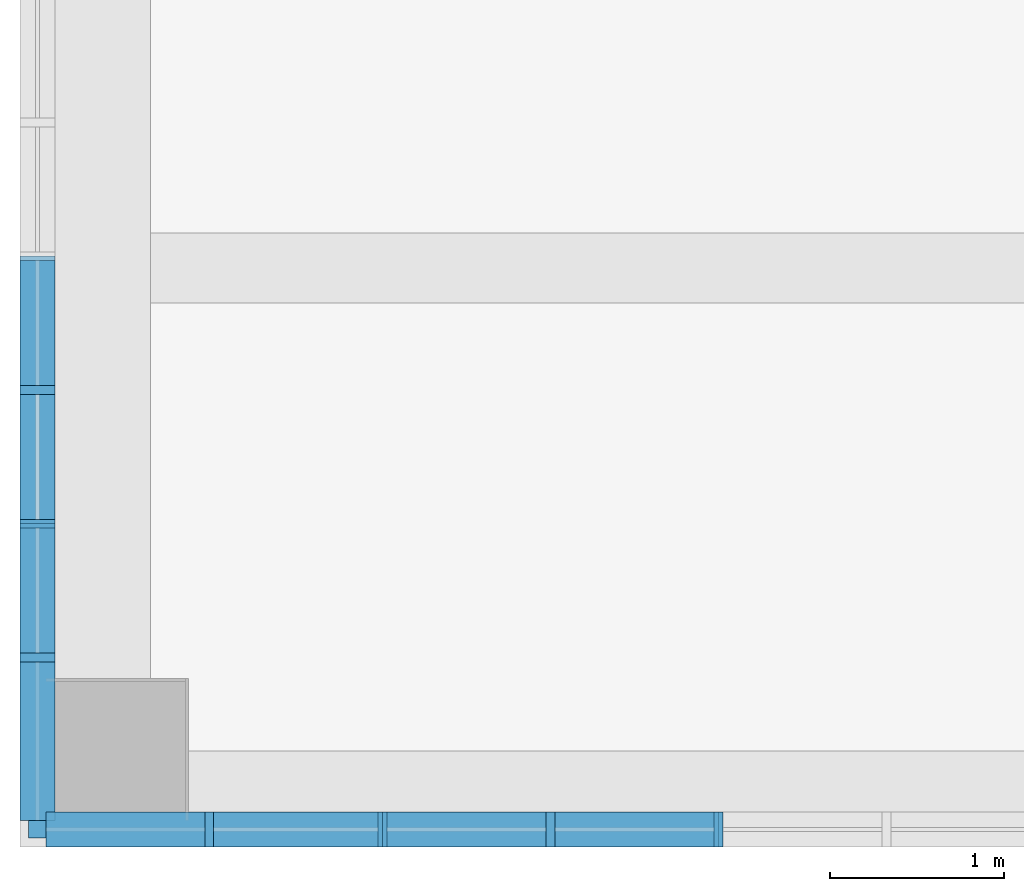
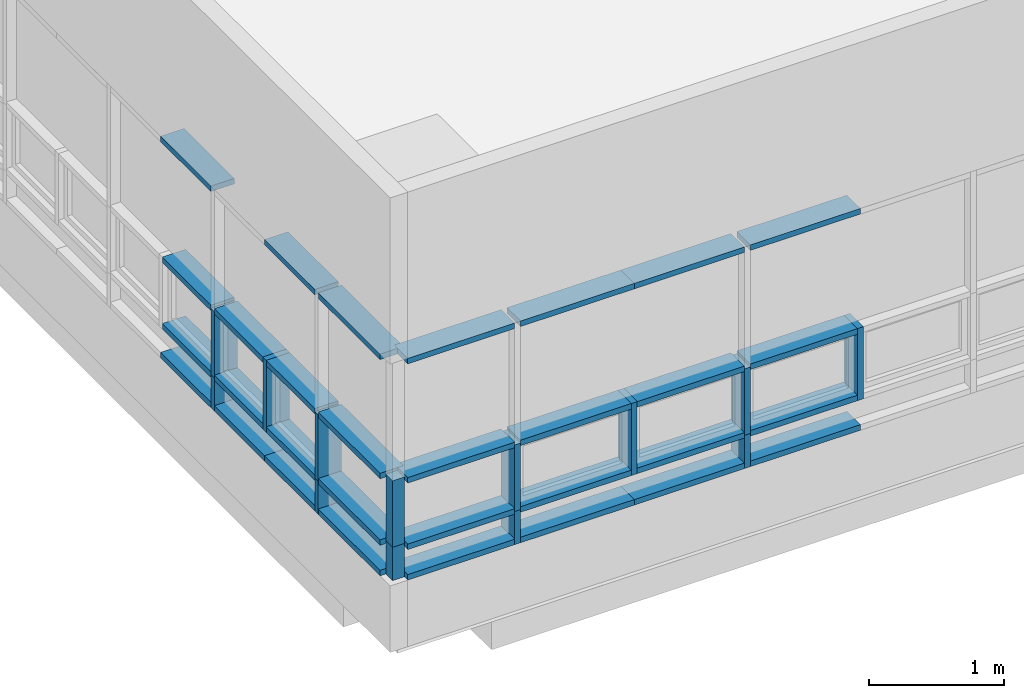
# One storey, part 9 of 82: 44 members, 2 elements without a shape of their own.
"""IFC2X3 building model written with IfcOpenShell, lengths in millimetres."""

from ifc_helpers import new_model, entity, si_unit, converted_unit, derived_unit, direction, frame, origin, origin_2d_with_axis, place, context, subcontext, project, spatial, rectangle, extrude, source, transform, mapped, material, type_object, type_shapes, element, aggregate, save


model = new_model("IFC2X3")

# Units and contexts
model_context = context("Model", 3, precision=0.01, world=origin(), true_north=direction((6.123031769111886e-17, 1.0)))
body_context = subcontext(model_context, "Body", "Model", "MODEL_VIEW")
ifc_project = project(units=[si_unit("LENGTHUNIT", "METRE", prefix="MILLI"), si_unit("AREAUNIT", "SQUARE_METRE"), si_unit("VOLUMEUNIT", "CUBIC_METRE"), converted_unit("PLANEANGLEUNIT", "DEGREE", entity("IfcRatioMeasure", 0.017453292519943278), si_unit("PLANEANGLEUNIT", "RADIAN"), dimensions=[0, 0, 0, 0, 0, 0, 0]), si_unit("MASSUNIT", "GRAM", prefix="KILO"), derived_unit("MASSDENSITYUNIT", [(si_unit("MASSUNIT", "GRAM", prefix="KILO"), 1), (si_unit("LENGTHUNIT", "METRE"), -3)]), derived_unit("MOMENTOFINERTIAUNIT", [(si_unit("LENGTHUNIT", "METRE"), 4)]), si_unit("TIMEUNIT", "SECOND"), si_unit("FREQUENCYUNIT", "HERTZ"), si_unit("THERMODYNAMICTEMPERATUREUNIT", "DEGREE_CELSIUS"), derived_unit("THERMALTRANSMITTANCEUNIT", [(si_unit("MASSUNIT", "GRAM", prefix="KILO"), 1), (si_unit("THERMODYNAMICTEMPERATUREUNIT", "KELVIN"), -1), (si_unit("TIMEUNIT", "SECOND"), -3)]), derived_unit("VOLUMETRICFLOWRATEUNIT", [(si_unit("LENGTHUNIT", "METRE"), 3), (si_unit("TIMEUNIT", "SECOND"), -1)]), derived_unit("MASSFLOWRATEUNIT", [(si_unit("MASSUNIT", "GRAM", prefix="KILO"), 1), (si_unit("TIMEUNIT", "SECOND"), -1)]), derived_unit("ROTATIONALFREQUENCYUNIT", [(si_unit("TIMEUNIT", "SECOND"), -1)]), si_unit("ELECTRICCURRENTUNIT", "AMPERE"), si_unit("ELECTRICVOLTAGEUNIT", "VOLT"), si_unit("POWERUNIT", "WATT"), si_unit("FORCEUNIT", "NEWTON", prefix="KILO"), si_unit("ILLUMINANCEUNIT", "LUX"), si_unit("LUMINOUSFLUXUNIT", "LUMEN"), si_unit("LUMINOUSINTENSITYUNIT", "CANDELA"), derived_unit("USERDEFINED", [(si_unit("MASSUNIT", "GRAM", prefix="KILO"), -1), (si_unit("LENGTHUNIT", "METRE"), -2), (si_unit("TIMEUNIT", "SECOND"), 3), (si_unit("LUMINOUSFLUXUNIT", "LUMEN"), 1)]), derived_unit("SOUNDPOWERUNIT", [(si_unit("MASSUNIT", "GRAM", prefix="KILO"), 1), (si_unit("LENGTHUNIT", "METRE"), 2), (si_unit("TIMEUNIT", "SECOND"), -3)]), derived_unit("SOUNDPRESSUREUNIT", [(si_unit("MASSUNIT", "GRAM", prefix="KILO"), 1), (si_unit("LENGTHUNIT", "METRE"), -1), (si_unit("TIMEUNIT", "SECOND"), -2)]), derived_unit("LINEARVELOCITYUNIT", [(si_unit("LENGTHUNIT", "METRE"), 1), (si_unit("TIMEUNIT", "SECOND"), -1)]), si_unit("PRESSUREUNIT", "PASCAL"), derived_unit("USERDEFINED", [(si_unit("LENGTHUNIT", "METRE"), -2), (si_unit("MASSUNIT", "GRAM", prefix="KILO"), 1), (si_unit("TIMEUNIT", "SECOND"), -2)]), derived_unit("LINEARFORCEUNIT", [(si_unit("MASSUNIT", "GRAM", prefix="KILO"), 1), (si_unit("LENGTHUNIT", "METRE"), 1), (si_unit("TIMEUNIT", "SECOND"), -2), (si_unit("LENGTHUNIT", "METRE"), -1)]), derived_unit("PLANARFORCEUNIT", [(si_unit("MASSUNIT", "GRAM", prefix="KILO"), 1), (si_unit("LENGTHUNIT", "METRE"), 1), (si_unit("TIMEUNIT", "SECOND"), -2), (si_unit("LENGTHUNIT", "METRE"), -2)])], contexts=[model_context])

# Site, building, storey
site_placement = place(None, frame((-14167.972527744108, -657.2125860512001, 0.0)))
site = spatial("IfcSite", under=ifc_project, at=site_placement, Name="Default", CompositionType="ELEMENT")
building_placement = place(site_placement, origin())
building = spatial("IfcBuilding", under=site, at=building_placement, Name="Sample Building", CompositionType="ELEMENT")
storey_placement = place(building_placement, frame((0.0, 0.0, 17500.0)))
storey = spatial("IfcBuildingStorey", under=building, at=storey_placement, Name="지상 5층", CompositionType="ELEMENT", Elevation=17500.00000000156)

# Curtain wall, members
curtain_wall_type = type_object("IfcCurtainWallType", Name="커튼월:CW112-스테인리스 스틸 커튼월", PredefinedType="NOTDEFINED")
curtain_wall_1_placement = place(storey_placement, frame((0.0, 0.0, -17500.0)))
curtain_wall_1 = element("IfcCurtainWall", 1, at=curtain_wall_1_placement, inside=storey, type_object=curtain_wall_type, Name="커튼월:CW112-스테인리스 스틸 커튼월", ObjectType="커튼월:CW112-스테인리스 스틸 커튼월")
ifc_material = material(Name="<Unnamed>")
member_type_1 = type_object("IfcMemberType", Name="직사각형 멀리언:CW200-직사각형 멀리언 50x200mm", PredefinedType="MULLION", material=ifc_material)
shared_shape_1 = source(origin(), body_context, "Body", "SweptSolid", [
    extrude(rectangle(XDim=200.0, YDim=50.0, at=origin_2d_with_axis()), frame((-25.0, 0.0, -970.0), z_axis=(0.0, 0.0, 1.0), x_axis=(0.0, -1.0, 0.0)), (0.0, 0.0, 1.0), 970.0000000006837),
])
type_shapes(member_type_1, [shared_shape_1])
member_1_placement = place(curtain_wall_1_placement, frame((15030.156070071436, 507.2122951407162, 18100.0), z_axis=(-1.0, 0.0, 0.0), x_axis=(0.0, 0.0, -1.0)))
member_1 = element("IfcMember", 2, at=member_1_placement, type_object=member_type_1, material=ifc_material, Name="직사각형 멀리언:CW200-직사각형 멀리언 50x200mm", ObjectType="직사각형 멀리언:CW200-직사각형 멀리언 50x200mm", context=body_context, shape_type="MappedRepresentation", body=[
    mapped(shared_shape_1, transform((0.0, 0.0, 0.0), scale=1.0)),
])
member_type_2 = type_object("IfcMemberType", Name="직사각형 멀리언:CW200-직사각형 멀리언 50x200mm", PredefinedType="MULLION", material=ifc_material)
shared_shape_2 = source(origin(), body_context, "Body", "SweptSolid", [
    extrude(rectangle(XDim=200.0, YDim=50.0, at=origin_2d_with_axis()), frame((0.0, 0.0, -600.0), z_axis=(0.0, 0.0, 1.0), x_axis=(0.0, -1.0, 0.0)), (0.0, 0.0, 1.0), 600.0),
])
type_shapes(member_type_2, [shared_shape_2])
member_2_placement = place(curtain_wall_1_placement, frame((15005.156070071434, 507.21229514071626, 18400.0), z_axis=(0.0, 0.0, -1.0), x_axis=(1.0, 0.0, 0.0)))
member_2 = element("IfcMember", 3, at=member_2_placement, type_object=member_type_2, material=ifc_material, Name="직사각형 멀리언:CW200-직사각형 멀리언 50x200mm", ObjectType="직사각형 멀리언:CW200-직사각형 멀리언 50x200mm", context=body_context, shape_type="MappedRepresentation", body=[
    mapped(shared_shape_2, transform((0.0, 0.0, 0.0), scale=1.0)),
])
member_3_placement = place(curtain_wall_1_placement, frame((16965.156070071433, 507.2122951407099, 18400.0), z_axis=(0.0, 0.0, -1.0), x_axis=(1.0, 0.0, 0.0)))
member_3 = element("IfcMember", 4, at=member_3_placement, type_object=member_type_2, material=ifc_material, Name="직사각형 멀리언:CW200-직사각형 멀리언 50x200mm", ObjectType="직사각형 멀리언:CW200-직사각형 멀리언 50x200mm", context=body_context, shape_type="MappedRepresentation", body=[
    mapped(shared_shape_2, transform((0.0, 0.0, 0.0), scale=1.0)),
])

curtain_wall_2_placement = place(storey_placement, frame((0.0, 0.0, -17500.0)))
curtain_wall_2 = element("IfcCurtainWall", 5, at=curtain_wall_2_placement, inside=storey, type_object=curtain_wall_type, Name="커튼월:CW112-스테인리스 스틸 커튼월", ObjectType="커튼월:CW112-스테인리스 스틸 커튼월")
member_4_placement = place(curtain_wall_2_placement, frame((14017.33965484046, 3031.531992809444, 18400.0), z_axis=(0.0, 0.0, -1.0), x_axis=(0.0, -1.0, 0.0)))
member_4 = element("IfcMember", 6, at=member_4_placement, type_object=member_type_2, material=ifc_material, Name="직사각형 멀리언:CW200-직사각형 멀리언 50x200mm", ObjectType="직사각형 멀리언:CW200-직사각형 멀리언 50x200mm", context=body_context, shape_type="MappedRepresentation", body=[
    mapped(shared_shape_2, transform((0.0, 0.0, 0.0), scale=1.0)),
])
member_5_placement = place(curtain_wall_2_placement, frame((14017.339654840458, 1494.817707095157, 18400.0), z_axis=(0.0, 0.0, -1.0), x_axis=(0.0, -1.0, 0.0)))
member_5 = element("IfcMember", 7, at=member_5_placement, type_object=member_type_2, material=ifc_material, Name="직사각형 멀리언:CW200-직사각형 멀리언 50x200mm", ObjectType="직사각형 멀리언:CW200-직사각형 멀리언 50x200mm", context=body_context, shape_type="MappedRepresentation", body=[
    mapped(shared_shape_2, transform((0.0, 0.0, 0.0), scale=1.0)),
])
member_type_3 = type_object("IfcMemberType", Name="직사각형 멀리언:CW200-직사각형 멀리언 50x200mm", PredefinedType="MULLION", material=ifc_material)
shared_shape_3 = source(origin(), body_context, "Body", "SweptSolid", [
    extrude(rectangle(XDim=200.0, YDim=50.0, at=origin_2d_with_axis()), frame((-25.0, 0.0, -912.5000000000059), z_axis=(0.0, 0.0, 1.0), x_axis=(0.0, -1.0, 0.0)), (0.0, 0.0, 1.0), 912.5000000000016),
])
type_shapes(member_type_3, [shared_shape_3])
member_6_placement = place(curtain_wall_2_placement, frame((14017.339654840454, 557.1869047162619, 20100.0), z_axis=(0.0, -1.0, 0.0), x_axis=(0.0, 0.0, 1.0)))
member_6 = element("IfcMember", 8, at=member_6_placement, type_object=member_type_3, material=ifc_material, Name="직사각형 멀리언:CW200-직사각형 멀리언 50x200mm", ObjectType="직사각형 멀리언:CW200-직사각형 멀리언 50x200mm", context=body_context, shape_type="MappedRepresentation", body=[
    mapped(shared_shape_3, transform((0.0, 0.0, 0.0), scale=1.0)),
])
member_type_4 = type_object("IfcMemberType", Name="직사각형 멀리언:CW200-직사각형 멀리언 50x200mm", PredefinedType="MULLION", material=ifc_material)
shared_shape_4 = source(origin(), body_context, "Body", "SweptSolid", [
    extrude(rectangle(XDim=200.0, YDim=50.0, at=origin_2d_with_axis()), frame((-25.0, 0.0, -912.5000000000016), z_axis=(0.0, 0.0, 1.0), x_axis=(0.0, -1.0, 0.0)), (0.0, 0.0, 1.0), 912.5000000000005),
])
type_shapes(member_type_4, [shared_shape_4])
member_7_placement = place(curtain_wall_2_placement, frame((14017.339654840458, 1469.8177070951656, 18100.0), z_axis=(0.0, 1.0, 0.0), x_axis=(0.0, 0.0, -1.0)))
member_7 = element("IfcMember", 9, at=member_7_placement, type_object=member_type_4, material=ifc_material, Name="직사각형 멀리언:CW200-직사각형 멀리언 50x200mm", ObjectType="직사각형 멀리언:CW200-직사각형 멀리언 50x200mm", context=body_context, shape_type="MappedRepresentation", body=[
    mapped(shared_shape_4, transform((0.0, 0.0, 0.0), scale=1.0)),
])
member_type_5 = type_object("IfcMemberType", Name="직사각형 멀리언:CW200-직사각형 멀리언 50x200mm", PredefinedType="MULLION", material=ifc_material)
shared_shape_5 = source(origin(), body_context, "Body", "SweptSolid", [
    extrude(rectangle(XDim=200.0, YDim=50.0, at=origin_2d_with_axis()), frame((0.0, 0.0, -912.4999999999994), z_axis=(0.0, 0.0, 1.0), x_axis=(0.0, -1.0, 0.0)), (0.0, 0.0, 1.0), 912.5000000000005),
])
type_shapes(member_type_5, [shared_shape_5])
member_8_placement = place(curtain_wall_2_placement, frame((14017.339654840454, 557.1869047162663, 18400.0), z_axis=(0.0, -1.0, 0.0), x_axis=(0.0, 0.0, 1.0)))
member_8 = element("IfcMember", 10, at=member_8_placement, type_object=member_type_5, material=ifc_material, Name="직사각형 멀리언:CW200-직사각형 멀리언 50x200mm", ObjectType="직사각형 멀리언:CW200-직사각형 멀리언 50x200mm", context=body_context, shape_type="MappedRepresentation", body=[
    mapped(shared_shape_5, transform((0.0, 0.0, 0.0), scale=1.0)),
])
member_9_placement = place(curtain_wall_2_placement, frame((14017.339654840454, 557.1869047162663, 19000.0), z_axis=(0.0, -1.0, 0.0), x_axis=(0.0, 0.0, 1.0)))
member_9 = element("IfcMember", 11, at=member_9_placement, type_object=member_type_5, material=ifc_material, Name="직사각형 멀리언:CW200-직사각형 멀리언 50x200mm", ObjectType="직사각형 멀리언:CW200-직사각형 멀리언 50x200mm", context=body_context, shape_type="MappedRepresentation", body=[
    mapped(shared_shape_5, transform((0.0, 0.0, 0.0), scale=1.0)),
])
member_type_6 = type_object("IfcMemberType", Name="직사각형 멀리언:CW200-직사각형 멀리언 100 x 100mm", PredefinedType="MULLION", material=ifc_material)
shared_shape_6 = source(origin(), body_context, "Body", "SweptSolid", [
    extrude(rectangle(XDim=100.0, YDim=100.0, at=origin_2d_with_axis()), frame((-50.0, 0.0, -600.0), z_axis=(0.0, 0.0, 1.0), x_axis=(0.0, -1.0, 0.0)), (0.0, 0.0, 1.0), 600.0000000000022),
])
type_shapes(member_type_6, [shared_shape_6])
member_10_placement = place(curtain_wall_2_placement, frame((14017.339654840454, 457.18690471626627, 18400.0), z_axis=(0.0, 0.0, -1.0), x_axis=(0.0, -1.0, 0.0)))
member_10 = element("IfcMember", 12, at=member_10_placement, type_object=member_type_6, material=ifc_material, Name="직사각형 멀리언:CW200-직사각형 멀리언 100 x 100mm", ObjectType="직사각형 멀리언:CW200-직사각형 멀리언 100 x 100mm", context=body_context, shape_type="MappedRepresentation", body=[
    mapped(shared_shape_6, transform((0.0, 0.0, 0.0), scale=1.0)),
])

# Member
member_type_7 = type_object("IfcMemberType", Name="직사각형 멀리언:CW200-직사각형 멀리언 50x200mm", PredefinedType="MULLION", material=ifc_material)
shared_shape_7 = source(origin(), body_context, "Body", "SweptSolid", [
    extrude(rectangle(XDim=200.0, YDim=50.0, at=origin_2d_with_axis()), frame((0.0, 0.0, -945.0), z_axis=(0.0, 0.0, 1.0), x_axis=(0.0, -1.0, 0.0)), (0.0, 0.0, 1.0), 944.9999999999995),
])
type_shapes(member_type_7, [shared_shape_7])
member_11_placement = place(curtain_wall_1_placement, frame((15975.156070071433, 507.2122951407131, 18400.0), z_axis=(1.0, 0.0, 0.0), x_axis=(0.0, 0.0, 1.0)))
member_11 = element("IfcMember", 13, at=member_11_placement, type_object=member_type_7, material=ifc_material, Name="직사각형 멀리언:CW200-직사각형 멀리언 50x200mm", ObjectType="직사각형 멀리언:CW200-직사각형 멀리언 50x200mm", context=body_context, shape_type="MappedRepresentation", body=[
    mapped(shared_shape_7, transform((0.0, 0.0, 0.0), scale=1.0)),
])

member_12_placement = place(curtain_wall_1_placement, frame((15975.156070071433, 507.2122951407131, 19000.0), z_axis=(1.0, 0.0, 0.0), x_axis=(0.0, 0.0, 1.0)))
member_12 = element("IfcMember", 14, at=member_12_placement, type_object=member_type_7, material=ifc_material, Name="직사각형 멀리언:CW200-직사각형 멀리언 50x200mm", ObjectType="직사각형 멀리언:CW200-직사각형 멀리언 50x200mm", context=body_context, shape_type="MappedRepresentation", body=[
    mapped(shared_shape_7, transform((0.0, 0.0, 0.0), scale=1.0)),
])

member_type_8 = type_object("IfcMemberType", Name="직사각형 멀리언:CW200-직사각형 멀리언 50x200mm", PredefinedType="MULLION", material=ifc_material)
shared_shape_8 = source(origin(), body_context, "Body", "SweptSolid", [
    extrude(rectangle(XDim=200.0, YDim=50.0, at=origin_2d_with_axis()), frame((0.0, 0.0, -915.0), z_axis=(0.0, 0.0, 1.0), x_axis=(0.0, -1.0, 0.0)), (0.0, 0.0, 1.0), 915.000000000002),
])
type_shapes(member_type_8, [shared_shape_8])
member_13_placement = place(curtain_wall_1_placement, frame((17905.156070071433, 507.21229514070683, 18400.0), z_axis=(1.0, 0.0, 0.0), x_axis=(0.0, 0.0, 1.0)))
member_13 = element("IfcMember", 15, at=member_13_placement, type_object=member_type_8, material=ifc_material, Name="직사각형 멀리언:CW200-직사각형 멀리언 50x200mm", ObjectType="직사각형 멀리언:CW200-직사각형 멀리언 50x200mm", context=body_context, shape_type="MappedRepresentation", body=[
    mapped(shared_shape_8, transform((0.0, 0.0, 0.0), scale=1.0)),
])

member_14_placement = place(curtain_wall_1_placement, frame((17905.156070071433, 507.21229514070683, 19000.0), z_axis=(1.0, 0.0, 0.0), x_axis=(0.0, 0.0, 1.0)))
member_14 = element("IfcMember", 16, at=member_14_placement, type_object=member_type_8, material=ifc_material, Name="직사각형 멀리언:CW200-직사각형 멀리언 50x200mm", ObjectType="직사각형 멀리언:CW200-직사각형 멀리언 50x200mm", context=body_context, shape_type="MappedRepresentation", body=[
    mapped(shared_shape_8, transform((0.0, 0.0, 0.0), scale=1.0)),
])

member_15_placement = place(curtain_wall_1_placement, frame((16940.156070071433, 507.21229514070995, 18400.0), z_axis=(1.0, 0.0, 0.0), x_axis=(0.0, 0.0, 1.0)))
member_15 = element("IfcMember", 17, at=member_15_placement, type_object=member_type_8, material=ifc_material, Name="직사각형 멀리언:CW200-직사각형 멀리언 50x200mm", ObjectType="직사각형 멀리언:CW200-직사각형 멀리언 50x200mm", context=body_context, shape_type="MappedRepresentation", body=[
    mapped(shared_shape_8, transform((0.0, 0.0, 0.0), scale=1.0)),
])

member_16_placement = place(curtain_wall_1_placement, frame((16940.156070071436, 507.21229514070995, 19000.0), z_axis=(1.0, 0.0, 0.0), x_axis=(0.0, 0.0, 1.0)))
member_16 = element("IfcMember", 18, at=member_16_placement, type_object=member_type_8, material=ifc_material, Name="직사각형 멀리언:CW200-직사각형 멀리언 50x200mm", ObjectType="직사각형 멀리언:CW200-직사각형 멀리언 50x200mm", context=body_context, shape_type="MappedRepresentation", body=[
    mapped(shared_shape_8, transform((0.0, 0.0, 0.0), scale=1.0)),
])

member_type_9 = type_object("IfcMemberType", Name="직사각형 멀리언:CW200-직사각형 멀리언 50x200mm", PredefinedType="MULLION", material=ifc_material)
shared_shape_9 = source(origin(), body_context, "Body", "SweptSolid", [
    extrude(rectangle(XDim=200.0, YDim=50.0, at=origin_2d_with_axis()), frame((-25.0, 0.0, -912.816415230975), z_axis=(0.0, 0.0, 1.0), x_axis=(0.0, -1.0, 0.0)), (0.0, 0.0, 1.0), 912.8164152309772),
])
type_shapes(member_type_9, [shared_shape_9])
member_17_placement = place(curtain_wall_1_placement, frame((14980.156070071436, 507.2122951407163, 20100.0), z_axis=(1.0, 0.0, 0.0), x_axis=(0.0, 0.0, 1.0)))
member_17 = element("IfcMember", 19, at=member_17_placement, type_object=member_type_9, material=ifc_material, Name="직사각형 멀리언:CW200-직사각형 멀리언 50x200mm", ObjectType="직사각형 멀리언:CW200-직사각형 멀리언 50x200mm", context=body_context, shape_type="MappedRepresentation", body=[
    mapped(shared_shape_9, transform((0.0, 0.0, 0.0), scale=1.0)),
])

member_type_10 = type_object("IfcMemberType", Name="직사각형 멀리언:CW200-직사각형 멀리언 50x200mm", PredefinedType="MULLION", material=ifc_material)
shared_shape_10 = source(origin(), body_context, "Body", "SweptSolid", [
    extrude(rectangle(XDim=200.0, YDim=50.0, at=origin_2d_with_axis()), frame((0.0, 0.0, -912.8164152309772), z_axis=(0.0, 0.0, 1.0), x_axis=(0.0, -1.0, 0.0)), (0.0, 0.0, 1.0), 912.8164152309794),
])
type_shapes(member_type_10, [shared_shape_10])
member_18_placement = place(curtain_wall_1_placement, frame((14980.156070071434, 507.2122951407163, 18400.0), z_axis=(1.0, 0.0, 0.0), x_axis=(0.0, 0.0, 1.0)))
member_18 = element("IfcMember", 20, at=member_18_placement, type_object=member_type_10, material=ifc_material, Name="직사각형 멀리언:CW200-직사각형 멀리언 50x200mm", ObjectType="직사각형 멀리언:CW200-직사각형 멀리언 50x200mm", context=body_context, shape_type="MappedRepresentation", body=[
    mapped(shared_shape_10, transform((0.0, 0.0, 0.0), scale=1.0)),
])

member_19_placement = place(curtain_wall_1_placement, frame((14980.156070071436, 507.2122951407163, 19000.0), z_axis=(1.0, 0.0, 0.0), x_axis=(0.0, 0.0, 1.0)))
member_19 = element("IfcMember", 21, at=member_19_placement, type_object=member_type_10, material=ifc_material, Name="직사각형 멀리언:CW200-직사각형 멀리언 50x200mm", ObjectType="직사각형 멀리언:CW200-직사각형 멀리언 50x200mm", context=body_context, shape_type="MappedRepresentation", body=[
    mapped(shared_shape_10, transform((0.0, 0.0, 0.0), scale=1.0)),
])

member_type_11 = type_object("IfcMemberType", Name="직사각형 멀리언:CW200-직사각형 멀리언 100 x 100mm", PredefinedType="MULLION", material=ifc_material)
shared_shape_11 = source(origin(), body_context, "Body", "SweptSolid", [
    extrude(rectangle(XDim=100.0, YDim=100.0, at=origin_2d_with_axis()), frame((-50.0, 0.0, -300.0), z_axis=(0.0, 0.0, 1.0), x_axis=(0.0, -1.0, 0.0)), (0.0, 0.0, 1.0), 300.0000000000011),
])
type_shapes(member_type_11, [shared_shape_11])
member_20_placement = place(curtain_wall_2_placement, frame((14017.339654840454, 457.18690471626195, 18100.0), z_axis=(0.0, 0.0, -1.0), x_axis=(0.0, -1.0, 0.0)))
member_20 = element("IfcMember", 22, at=member_20_placement, type_object=member_type_11, material=ifc_material, Name="직사각형 멀리언:CW200-직사각형 멀리언 100 x 100mm", ObjectType="직사각형 멀리언:CW200-직사각형 멀리언 100 x 100mm", context=body_context, shape_type="MappedRepresentation", body=[
    mapped(shared_shape_11, transform((0.0, 0.0, 0.0), scale=1.0)),
])

member_type_12 = type_object("IfcMemberType", Name="직사각형 멀리언:CW200-직사각형 멀리언 50x200mm", PredefinedType="MULLION", material=ifc_material)
shared_shape_12 = source(origin(), body_context, "Body", "SweptSolid", [
    extrude(rectangle(XDim=200.0, YDim=50.0, at=origin_2d_with_axis()), frame((0.0, 0.0, -300.0), z_axis=(0.0, 0.0, 1.0), x_axis=(0.0, -1.0, 0.0)), (0.0, 0.0, 1.0), 300.0000000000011),
])
type_shapes(member_type_12, [shared_shape_12])
member_21_placement = place(curtain_wall_1_placement, frame((15005.156070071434, 507.21229514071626, 18100.0), z_axis=(0.0, 0.0, -1.0), x_axis=(1.0, 0.0, 0.0)))
member_21 = element("IfcMember", 23, at=member_21_placement, type_object=member_type_12, material=ifc_material, Name="직사각형 멀리언:CW200-직사각형 멀리언 50x200mm", ObjectType="직사각형 멀리언:CW200-직사각형 멀리언 50x200mm", context=body_context, shape_type="MappedRepresentation", body=[
    mapped(shared_shape_12, transform((0.0, 0.0, 0.0), scale=1.0)),
])

member_22_placement = place(curtain_wall_1_placement, frame((16965.156070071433, 507.2122951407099, 18100.0), z_axis=(0.0, 0.0, -1.0), x_axis=(1.0, 0.0, 0.0)))
member_22 = element("IfcMember", 24, at=member_22_placement, type_object=member_type_12, material=ifc_material, Name="직사각형 멀리언:CW200-직사각형 멀리언 50x200mm", ObjectType="직사각형 멀리언:CW200-직사각형 멀리언 50x200mm", context=body_context, shape_type="MappedRepresentation", body=[
    mapped(shared_shape_12, transform((0.0, 0.0, 0.0), scale=1.0)),
])

member_23_placement = place(curtain_wall_2_placement, frame((14017.33965484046, 3031.531992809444, 18100.0), z_axis=(0.0, 0.0, -1.0), x_axis=(0.0, -1.0, 0.0)))
member_23 = element("IfcMember", 25, at=member_23_placement, type_object=member_type_12, material=ifc_material, Name="직사각형 멀리언:CW200-직사각형 멀리언 50x200mm", ObjectType="직사각형 멀리언:CW200-직사각형 멀리언 50x200mm", context=body_context, shape_type="MappedRepresentation", body=[
    mapped(shared_shape_12, transform((0.0, 0.0, 0.0), scale=1.0)),
])

member_24_placement = place(curtain_wall_2_placement, frame((14017.339654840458, 1494.817707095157, 18100.0), z_axis=(0.0, 0.0, -1.0), x_axis=(0.0, -1.0, 0.0)))
member_24 = element("IfcMember", 26, at=member_24_placement, type_object=member_type_12, material=ifc_material, Name="직사각형 멀리언:CW200-직사각형 멀리언 50x200mm", ObjectType="직사각형 멀리언:CW200-직사각형 멀리언 50x200mm", context=body_context, shape_type="MappedRepresentation", body=[
    mapped(shared_shape_12, transform((0.0, 0.0, 0.0), scale=1.0)),
])

member_type_13 = type_object("IfcMemberType", Name="직사각형 멀리언:CW200-직사각형 멀리언 50x200mm", PredefinedType="MULLION", material=ifc_material)
shared_shape_13 = source(origin(), body_context, "Body", "SweptSolid", [
    extrude(rectangle(XDim=200.0, YDim=50.0, at=origin_2d_with_axis()), frame((-25.0, 0.0, -743.3571428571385), z_axis=(0.0, 0.0, 1.0), x_axis=(0.0, -1.0, 0.0)), (0.0, 0.0, 1.0), 743.3571428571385),
])
type_shapes(member_type_13, [shared_shape_13])
member_25_placement = place(curtain_wall_2_placement, frame((14017.33965484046, 3006.53199280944, 18100.0), z_axis=(0.0, 1.0, 0.0), x_axis=(0.0, 0.0, -1.0)))
member_25 = element("IfcMember", 27, at=member_25_placement, type_object=member_type_13, material=ifc_material, Name="직사각형 멀리언:CW200-직사각형 멀리언 50x200mm", ObjectType="직사각형 멀리언:CW200-직사각형 멀리언 50x200mm", context=body_context, shape_type="MappedRepresentation", body=[
    mapped(shared_shape_13, transform((0.0, 0.0, 0.0), scale=1.0)),
])

member_type_14 = type_object("IfcMemberType", Name="직사각형 멀리언:CW200-직사각형 멀리언 50x200mm", PredefinedType="MULLION", material=ifc_material)
shared_shape_14 = source(origin(), body_context, "Body", "SweptSolid", [
    extrude(rectangle(XDim=200.0, YDim=50.0, at=origin_2d_with_axis()), frame((0.0, 0.0, -718.3571428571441), z_axis=(0.0, 0.0, 1.0), x_axis=(0.0, -1.0, 0.0)), (0.0, 0.0, 1.0), 718.3571428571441),
])
type_shapes(member_type_14, [shared_shape_14])
member_26_placement = place(curtain_wall_2_placement, frame((14017.339654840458, 2288.1748499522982, 18400.0), z_axis=(0.0, -1.0, 0.0), x_axis=(0.0, 0.0, 1.0)))
member_26 = element("IfcMember", 28, at=member_26_placement, type_object=member_type_14, material=ifc_material, Name="직사각형 멀리언:CW200-직사각형 멀리언 50x200mm", ObjectType="직사각형 멀리언:CW200-직사각형 멀리언 50x200mm", context=body_context, shape_type="MappedRepresentation", body=[
    mapped(shared_shape_14, transform((0.0, 0.0, 0.0), scale=1.0)),
])

member_27_placement = place(curtain_wall_2_placement, frame((14017.339654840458, 2288.1748499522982, 19000.0), z_axis=(0.0, -1.0, 0.0), x_axis=(0.0, 0.0, 1.0)))
member_27 = element("IfcMember", 29, at=member_27_placement, type_object=member_type_14, material=ifc_material, Name="직사각형 멀리언:CW200-직사각형 멀리언 50x200mm", ObjectType="직사각형 멀리언:CW200-직사각형 멀리언 50x200mm", context=body_context, shape_type="MappedRepresentation", body=[
    mapped(shared_shape_14, transform((0.0, 0.0, 0.0), scale=1.0)),
])

member_28_placement = place(curtain_wall_2_placement, frame((14017.33965484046, 3056.5319928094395, 18400.0), z_axis=(0.0, -1.0, 0.0), x_axis=(0.0, 0.0, 1.0)))
member_28 = element("IfcMember", 30, at=member_28_placement, type_object=member_type_14, material=ifc_material, Name="직사각형 멀리언:CW200-직사각형 멀리언 50x200mm", ObjectType="직사각형 멀리언:CW200-직사각형 멀리언 50x200mm", context=body_context, shape_type="MappedRepresentation", body=[
    mapped(shared_shape_14, transform((0.0, 0.0, 0.0), scale=1.0)),
])

member_29_placement = place(curtain_wall_2_placement, frame((14017.33965484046, 3056.5319928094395, 19000.0), z_axis=(0.0, -1.0, 0.0), x_axis=(0.0, 0.0, 1.0)))
member_29 = element("IfcMember", 31, at=member_29_placement, type_object=member_type_14, material=ifc_material, Name="직사각형 멀리언:CW200-직사각형 멀리언 50x200mm", ObjectType="직사각형 멀리언:CW200-직사각형 멀리언 50x200mm", context=body_context, shape_type="MappedRepresentation", body=[
    mapped(shared_shape_14, transform((0.0, 0.0, 0.0), scale=1.0)),
])

member_30_placement = place(curtain_wall_2_placement, frame((14017.339654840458, 1519.8177070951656, 18400.0), z_axis=(0.0, -1.0, 0.0), x_axis=(0.0, 0.0, 1.0)))
member_30 = element("IfcMember", 32, at=member_30_placement, type_object=member_type_14, material=ifc_material, Name="직사각형 멀리언:CW200-직사각형 멀리언 50x200mm", ObjectType="직사각형 멀리언:CW200-직사각형 멀리언 50x200mm", context=body_context, shape_type="MappedRepresentation", body=[
    mapped(shared_shape_14, transform((0.0, 0.0, 0.0), scale=1.0)),
])

member_31_placement = place(curtain_wall_2_placement, frame((14017.339654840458, 1519.8177070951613, 19000.0), z_axis=(0.0, -1.0, 0.0), x_axis=(0.0, 0.0, 1.0)))
member_31 = element("IfcMember", 33, at=member_31_placement, type_object=member_type_14, material=ifc_material, Name="직사각형 멀리언:CW200-직사각형 멀리언 50x200mm", ObjectType="직사각형 멀리언:CW200-직사각형 멀리언 50x200mm", context=body_context, shape_type="MappedRepresentation", body=[
    mapped(shared_shape_14, transform((0.0, 0.0, 0.0), scale=1.0)),
])

member_type_15 = type_object("IfcMemberType", Name="직사각형 멀리언:CW200-직사각형 멀리언 50x200mm", PredefinedType="MULLION", material=ifc_material)
shared_shape_15 = source(origin(), body_context, "Body", "SweptSolid", [
    extrude(rectangle(XDim=200.0, YDim=50.0, at=origin_2d_with_axis()), frame((-25.0, 0.0, -743.3571428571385), z_axis=(0.0, 0.0, 1.0), x_axis=(0.0, -1.0, 0.0)), (0.0, 0.0, 1.0), 743.3571428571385),
])
type_shapes(member_type_15, [shared_shape_15])
member_32_placement = place(curtain_wall_2_placement, frame((14017.33965484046, 3056.531992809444, 20100.0), z_axis=(0.0, -1.0, 0.0), x_axis=(0.0, 0.0, 1.0)))
member_32 = element("IfcMember", 34, at=member_32_placement, type_object=member_type_15, material=ifc_material, Name="직사각형 멀리언:CW200-직사각형 멀리언 50x200mm", ObjectType="직사각형 멀리언:CW200-직사각형 멀리언 50x200mm", context=body_context, shape_type="MappedRepresentation", body=[
    mapped(shared_shape_15, transform((0.0, 0.0, 0.0), scale=1.0)),
])

member_33_placement = place(curtain_wall_2_placement, frame((14017.339654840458, 1519.8177070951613, 20100.0), z_axis=(0.0, -1.0, 0.0), x_axis=(0.0, 0.0, 1.0)))
member_33 = element("IfcMember", 35, at=member_33_placement, type_object=member_type_15, material=ifc_material, Name="직사각형 멀리언:CW200-직사각형 멀리언 50x200mm", ObjectType="직사각형 멀리언:CW200-직사각형 멀리언 50x200mm", context=body_context, shape_type="MappedRepresentation", body=[
    mapped(shared_shape_15, transform((0.0, 0.0, 0.0), scale=1.0)),
])

member_type_16 = type_object("IfcMemberType", Name="직사각형 멀리언:CW200-직사각형 멀리언 50x200mm", PredefinedType="MULLION", material=ifc_material)
shared_shape_16 = source(origin(), body_context, "Body", "SweptSolid", [
    extrude(rectangle(XDim=200.0, YDim=50.0, at=origin_2d_with_axis()), frame((0.0, 0.0, -650.0), z_axis=(0.0, 0.0, 1.0), x_axis=(0.0, -1.0, 0.0)), (0.0, 0.0, 1.0), 650.0000000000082),
])
type_shapes(member_type_16, [shared_shape_16])
member_34_placement = place(curtain_wall_1_placement, frame((16000.156070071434, 507.212295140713, 18375.0), z_axis=(0.0, 0.0, -1.0), x_axis=(1.0, 0.0, 0.0)))
member_34 = element("IfcMember", 36, at=member_34_placement, type_object=member_type_16, material=ifc_material, Name="직사각형 멀리언:CW200-직사각형 멀리언 50x200mm", ObjectType="직사각형 멀리언:CW200-직사각형 멀리언 50x200mm", context=body_context, shape_type="MappedRepresentation", body=[
    mapped(shared_shape_16, transform((0.0, 0.0, 0.0), scale=1.0)),
])

member_35_placement = place(curtain_wall_1_placement, frame((17930.156070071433, 507.2122951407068, 18375.0), z_axis=(0.0, 0.0, -1.0), x_axis=(1.0, 0.0, 0.0)))
member_35 = element("IfcMember", 37, at=member_35_placement, type_object=member_type_16, material=ifc_material, Name="직사각형 멀리언:CW200-직사각형 멀리언 50x200mm", ObjectType="직사각형 멀리언:CW200-직사각형 멀리언 50x200mm", context=body_context, shape_type="MappedRepresentation", body=[
    mapped(shared_shape_16, transform((0.0, 0.0, 0.0), scale=1.0)),
])

member_36_placement = place(curtain_wall_2_placement, frame((14017.339654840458, 2263.1748499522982, 18375.0), z_axis=(0.0, 0.0, -1.0), x_axis=(0.0, -1.0, 0.0)))
member_36 = element("IfcMember", 38, at=member_36_placement, type_object=member_type_16, material=ifc_material, Name="직사각형 멀리언:CW200-직사각형 멀리언 50x200mm", ObjectType="직사각형 멀리언:CW200-직사각형 멀리언 50x200mm", context=body_context, shape_type="MappedRepresentation", body=[
    mapped(shared_shape_16, transform((0.0, 0.0, 0.0), scale=1.0)),
])

member_type_17 = type_object("IfcMemberType", Name="직사각형 멀리언:CW200-직사각형 멀리언 50x200mm", PredefinedType="MULLION", material=ifc_material)
shared_shape_17 = source(origin(), body_context, "Body", "SweptSolid", [
    extrude(rectangle(XDim=200.0, YDim=50.0, at=origin_2d_with_axis()), frame((-25.0, 0.0, -743.3571428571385), z_axis=(0.0, 0.0, 1.0), x_axis=(0.0, -1.0, 0.0)), (0.0, 0.0, 1.0), 743.3571428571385),
])
type_shapes(member_type_17, [shared_shape_17])
member_37_placement = place(curtain_wall_2_placement, frame((14017.33965484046, 3799.88913566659, 18100.0), z_axis=(0.0, 1.0, 0.0), x_axis=(0.0, 0.0, -1.0)))
member_37 = element("IfcMember", 39, at=member_37_placement, type_object=member_type_17, material=ifc_material, Name="직사각형 멀리언:CW200-직사각형 멀리언 50x200mm", ObjectType="직사각형 멀리언:CW200-직사각형 멀리언 50x200mm", context=body_context, shape_type="MappedRepresentation", body=[
    mapped(shared_shape_17, transform((0.0, 0.0, 0.0), scale=1.0)),
])

member_38_placement = place(curtain_wall_2_placement, frame((14017.339654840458, 2263.1748499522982, 18100.0), z_axis=(0.0, 1.0, 0.0), x_axis=(0.0, 0.0, -1.0)))
member_38 = element("IfcMember", 40, at=member_38_placement, type_object=member_type_17, material=ifc_material, Name="직사각형 멀리언:CW200-직사각형 멀리언 50x200mm", ObjectType="직사각형 멀리언:CW200-직사각형 멀리언 50x200mm", context=body_context, shape_type="MappedRepresentation", body=[
    mapped(shared_shape_17, transform((0.0, 0.0, 0.0), scale=1.0)),
])

aggregate(curtain_wall_2, [member_6, member_20, member_10, member_32, member_25, member_26, member_27, member_23, member_4, member_33, member_7, member_8, member_9, member_24, member_5, member_37, member_28, member_29, member_38, member_30, member_31, member_36])

member_type_18 = type_object("IfcMemberType", Name="직사각형 멀리언:CW200-직사각형 멀리언 50x200mm", PredefinedType="MULLION", material=ifc_material)
shared_shape_18 = source(origin(), body_context, "Body", "SweptSolid", [
    extrude(rectangle(XDim=200.0, YDim=50.0, at=origin_2d_with_axis()), frame((-25.0, 0.0, -912.8164152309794), z_axis=(0.0, 0.0, 1.0), x_axis=(0.0, -1.0, 0.0)), (0.0, 0.0, 1.0), 912.8164152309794),
])
type_shapes(member_type_18, [shared_shape_18])
member_39_placement = place(curtain_wall_1_placement, frame((14067.339654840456, 507.2122951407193, 18100.0), z_axis=(-1.0, 0.0, 0.0), x_axis=(0.0, 0.0, -1.0)))
member_39 = element("IfcMember", 41, at=member_39_placement, type_object=member_type_18, material=ifc_material, Name="직사각형 멀리언:CW200-직사각형 멀리언 50x200mm", ObjectType="직사각형 멀리언:CW200-직사각형 멀리언 50x200mm", context=body_context, shape_type="MappedRepresentation", body=[
    mapped(shared_shape_18, transform((0.0, 0.0, 0.0), scale=1.0)),
])

member_type_19 = type_object("IfcMemberType", Name="직사각형 멀리언:CW200-직사각형 멀리언 50x200mm", PredefinedType="MULLION", material=ifc_material)
shared_shape_19 = source(origin(), body_context, "Body", "SweptSolid", [
    extrude(rectangle(XDim=200.0, YDim=50.0, at=origin_2d_with_axis()), frame((-25.0, 0.0, -940.0), z_axis=(0.0, 0.0, 1.0), x_axis=(0.0, -1.0, 0.0)), (0.0, 0.0, 1.0), 939.9999999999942),
])
type_shapes(member_type_19, [shared_shape_19])
member_40_placement = place(curtain_wall_1_placement, frame((16940.156070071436, 507.21229514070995, 20100.0), z_axis=(1.0, 0.0, 0.0), x_axis=(0.0, 0.0, 1.0)))
member_40 = element("IfcMember", 42, at=member_40_placement, type_object=member_type_19, material=ifc_material, Name="직사각형 멀리언:CW200-직사각형 멀리언 50x200mm", ObjectType="직사각형 멀리언:CW200-직사각형 멀리언 50x200mm", context=body_context, shape_type="MappedRepresentation", body=[
    mapped(shared_shape_19, transform((0.0, 0.0, 0.0), scale=1.0)),
])

member_type_20 = type_object("IfcMemberType", Name="직사각형 멀리언:CW200-직사각형 멀리언 50x200mm", PredefinedType="MULLION", material=ifc_material)
shared_shape_20 = source(origin(), body_context, "Body", "SweptSolid", [
    extrude(rectangle(XDim=200.0, YDim=50.0, at=origin_2d_with_axis()), frame((-25.0, 0.0, -940.0), z_axis=(0.0, 0.0, 1.0), x_axis=(0.0, -1.0, 0.0)), (0.0, 0.0, 1.0), 940.0000000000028),
])
type_shapes(member_type_20, [shared_shape_20])
member_41_placement = place(curtain_wall_1_placement, frame((16990.156070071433, 507.21229514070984, 18100.0), z_axis=(-1.0, 0.0, 0.0), x_axis=(0.0, 0.0, -1.0)))
member_41 = element("IfcMember", 43, at=member_41_placement, type_object=member_type_20, material=ifc_material, Name="직사각형 멀리언:CW200-직사각형 멀리언 50x200mm", ObjectType="직사각형 멀리언:CW200-직사각형 멀리언 50x200mm", context=body_context, shape_type="MappedRepresentation", body=[
    mapped(shared_shape_20, transform((0.0, 0.0, 0.0), scale=1.0)),
])

member_type_21 = type_object("IfcMemberType", Name="직사각형 멀리언:CW200-직사각형 멀리언 50x200mm", PredefinedType="MULLION", material=ifc_material)
shared_shape_21 = source(origin(), body_context, "Body", "SweptSolid", [
    extrude(rectangle(XDim=200.0, YDim=50.0, at=origin_2d_with_axis()), frame((-25.0, 0.0, -970.0), z_axis=(0.0, 0.0, 1.0), x_axis=(0.0, -1.0, 0.0)), (0.0, 0.0, 1.0), 969.999999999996),
])
type_shapes(member_type_21, [shared_shape_21])
member_42_placement = place(curtain_wall_1_placement, frame((16000.156070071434, 507.212295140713, 20100.0), z_axis=(1.0, 0.0, 0.0), x_axis=(0.0, 0.0, 1.0)))
member_42 = element("IfcMember", 44, at=member_42_placement, type_object=member_type_21, material=ifc_material, Name="직사각형 멀리언:CW200-직사각형 멀리언 50x200mm", ObjectType="직사각형 멀리언:CW200-직사각형 멀리언 50x200mm", context=body_context, shape_type="MappedRepresentation", body=[
    mapped(shared_shape_21, transform((0.0, 0.0, 0.0), scale=1.0)),
])

member_type_22 = type_object("IfcMemberType", Name="직사각형 멀리언:CW200-직사각형 멀리언 50x200mm", PredefinedType="MULLION", material=ifc_material)
shared_shape_22 = source(origin(), body_context, "Body", "SweptSolid", [
    extrude(rectangle(XDim=200.0, YDim=50.0, at=origin_2d_with_axis()), frame((-25.0, 0.0, -940.0), z_axis=(0.0, 0.0, 1.0), x_axis=(0.0, -1.0, 0.0)), (0.0, 0.0, 1.0), 940.0000000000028),
])
type_shapes(member_type_22, [shared_shape_22])
member_43_placement = place(curtain_wall_1_placement, frame((16000.156070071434, 507.212295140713, 18100.0), z_axis=(-1.0, 0.0, 0.0), x_axis=(0.0, 0.0, -1.0)))
member_43 = element("IfcMember", 45, at=member_43_placement, type_object=member_type_22, material=ifc_material, Name="직사각형 멀리언:CW200-직사각형 멀리언 50x200mm", ObjectType="직사각형 멀리언:CW200-직사각형 멀리언 50x200mm", context=body_context, shape_type="MappedRepresentation", body=[
    mapped(shared_shape_22, transform((0.0, 0.0, 0.0), scale=1.0)),
])

member_type_23 = type_object("IfcMemberType", Name="직사각형 멀리언:CW200-직사각형 멀리언 50x200mm", PredefinedType="MULLION", material=ifc_material)
shared_shape_23 = source(origin(), body_context, "Body", "SweptSolid", [
    extrude(rectangle(XDim=200.0, YDim=50.0, at=origin_2d_with_axis()), frame((-25.0, 0.0, -940.0), z_axis=(0.0, 0.0, 1.0), x_axis=(0.0, -1.0, 0.0)), (0.0, 0.0, 1.0), 940.0000000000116),
])
type_shapes(member_type_23, [shared_shape_23])
member_44_placement = place(curtain_wall_1_placement, frame((17930.156070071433, 507.2122951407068, 20100.0), z_axis=(1.0, 0.0, 0.0), x_axis=(0.0, 0.0, 1.0)))
member_44 = element("IfcMember", 46, at=member_44_placement, type_object=member_type_23, material=ifc_material, Name="직사각형 멀리언:CW200-직사각형 멀리언 50x200mm", ObjectType="직사각형 멀리언:CW200-직사각형 멀리언 50x200mm", context=body_context, shape_type="MappedRepresentation", body=[
    mapped(shared_shape_23, transform((0.0, 0.0, 0.0), scale=1.0)),
])

aggregate(curtain_wall_1, [member_39, member_18, member_19, member_17, member_1, member_11, member_12, member_21, member_2, member_40, member_41, member_13, member_14, member_22, member_3, member_42, member_43, member_15, member_16, member_34, member_44, member_35])

save(model, "model.ifc")
